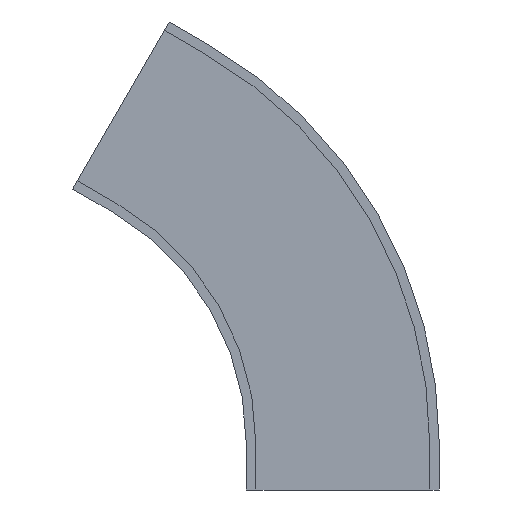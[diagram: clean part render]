
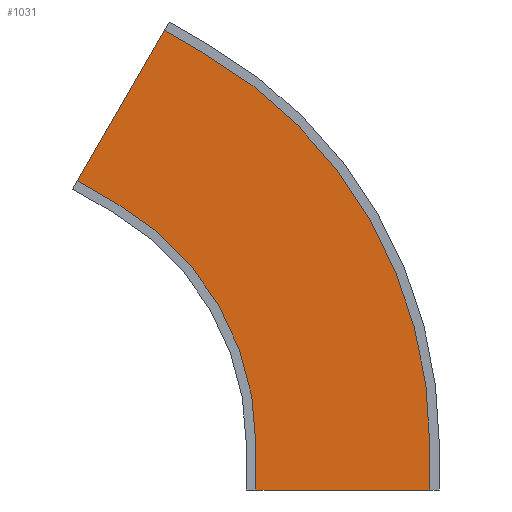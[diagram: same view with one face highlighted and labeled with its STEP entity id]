
A CAD part, front view. The second image highlights one B-rep face of the part: STEP entity #1031.
In plain terms, the highlighted planar face has unit normal (0, -1, 0).
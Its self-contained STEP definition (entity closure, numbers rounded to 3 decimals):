
#129 = CARTESIAN_POINT ( 'NONE',  ( 218.147, -68., 577.842 ) ) ;
#130 = DIRECTION ( 'NONE',  ( 0.5, 0., 0.866 ) ) ;
#131 = DIRECTION ( 'NONE',  ( -1., 0., 0. ) ) ;
#132 = DIRECTION ( 'NONE',  ( 0., 0., 1. ) ) ;
#133 = DIRECTION ( 'NONE',  ( -1., 0., 0. ) ) ;
#134 = DIRECTION ( 'NONE',  ( 0., 0., 1. ) ) ;
#136 = DIRECTION ( 'NONE',  ( -1., 0., 0. ) ) ;
#137 = DIRECTION ( 'NONE',  ( 0., 1., 0. ) ) ;
#146 = CARTESIAN_POINT ( 'NONE',  ( 0., -68., 0. ) ) ;
#148 = DIRECTION ( 'NONE',  ( 0.866, 0., -0.5 ) ) ;
#155 = CARTESIAN_POINT ( 'NONE',  ( 990.5, -68., -100. ) ) ;
#156 = CARTESIAN_POINT ( 'NONE',  ( 609.5, -68., -100. ) ) ;
#157 = DIRECTION ( 'NONE',  ( 0.866, 0., -0.5 ) ) ;
#158 = CARTESIAN_POINT ( 'NONE',  ( 0., -68., -100. ) ) ;
#159 = CARTESIAN_POINT ( 'NONE',  ( -86.603, -68., 50. ) ) ;
#160 = DIRECTION ( 'NONE',  ( 0., 1., 0. ) ) ;
#161 = CARTESIAN_POINT ( 'NONE',  ( 0., -68., 0. ) ) ;
#162 = CARTESIAN_POINT ( 'NONE',  ( 408.647, -68., 907.798 ) ) ;
#512 = DIRECTION ( 'NONE',  ( -1., 0., 0. ) ) ;
#513 = DIRECTION ( 'NONE',  ( 0., 1., 0. ) ) ;
#515 = PLANE ( 'NONE',  #1894 ) ;
#520 = CARTESIAN_POINT ( 'NONE',  ( 304.75, -68., 527.842 ) ) ;
#638 = EDGE_LOOP ( 'NONE', ( #861, #862, #863, #864, #865, #866, #867, #868 ) ) ;
#861 = ORIENTED_EDGE ( 'NONE', *, *, #911, .F. ) ;
#862 = ORIENTED_EDGE ( 'NONE', *, *, #912, .F. ) ;
#863 = ORIENTED_EDGE ( 'NONE', *, *, #913, .F. ) ;
#864 = ORIENTED_EDGE ( 'NONE', *, *, #914, .T. ) ;
#865 = ORIENTED_EDGE ( 'NONE', *, *, #908, .T. ) ;
#866 = ORIENTED_EDGE ( 'NONE', *, *, #915, .F. ) ;
#867 = ORIENTED_EDGE ( 'NONE', *, *, #916, .F. ) ;
#868 = ORIENTED_EDGE ( 'NONE', *, *, #917, .T. ) ;
#908 = EDGE_CURVE ( 'NONE', #1476, #1473, #1554, .T. ) ;
#911 = EDGE_CURVE ( 'NONE', #1470, #1483, #1559, .T. ) ;
#912 = EDGE_CURVE ( 'NONE', #1471, #1470, #1556, .T. ) ;
#913 = EDGE_CURVE ( 'NONE', #1469, #1471, #1561, .T. ) ;
#914 = EDGE_CURVE ( 'NONE', #1469, #1476, #1564, .T. ) ;
#915 = EDGE_CURVE ( 'NONE', #1472, #1473, #1566, .T. ) ;
#916 = EDGE_CURVE ( 'NONE', #1466, #1472, #1562, .T. ) ;
#917 = EDGE_CURVE ( 'NONE', #1466, #1483, #1570, .T. ) ;
#1031 = ADVANCED_FACE ( 'NONE', ( #1743 ), #515, .F. ) ;
#1109 = CARTESIAN_POINT ( 'NONE',  ( 990.5, -68., -100. ) ) ;
#1112 = CARTESIAN_POINT ( 'NONE',  ( 218.147, -68., 577.842 ) ) ;
#1113 = CARTESIAN_POINT ( 'NONE',  ( 495.25, -68., 857.798 ) ) ;
#1114 = CARTESIAN_POINT ( 'NONE',  ( 408.647, -68., 907.798 ) ) ;
#1115 = CARTESIAN_POINT ( 'NONE',  ( 609.5, -68., -100. ) ) ;
#1116 = CARTESIAN_POINT ( 'NONE',  ( 609.5, -68., 0. ) ) ;
#1119 = CARTESIAN_POINT ( 'NONE',  ( 304.75, -68., 527.842 ) ) ;
#1126 = CARTESIAN_POINT ( 'NONE',  ( 990.5, -68., 0. ) ) ;
#1254 = AXIS2_PLACEMENT_3D ( 'NONE', #146, #137, #136 ) ;
#1255 = AXIS2_PLACEMENT_3D ( 'NONE', #161, #160, #131 ) ;
#1466 = VERTEX_POINT ( 'NONE', #1109 ) ;
#1469 = VERTEX_POINT ( 'NONE', #1112 ) ;
#1470 = VERTEX_POINT ( 'NONE', #1113 ) ;
#1471 = VERTEX_POINT ( 'NONE', #1114 ) ;
#1472 = VERTEX_POINT ( 'NONE', #1115 ) ;
#1473 = VERTEX_POINT ( 'NONE', #1116 ) ;
#1476 = VERTEX_POINT ( 'NONE', #1119 ) ;
#1483 = VERTEX_POINT ( 'NONE', #1126 ) ;
#1554 = CIRCLE ( 'NONE', #1254, 609.5 ) ;
#1556 = LINE ( 'NONE', #162, #1563 ) ;
#1559 = CIRCLE ( 'NONE', #1255, 990.5 ) ;
#1561 = LINE ( 'NONE', #159, #1565 ) ;
#1562 = LINE ( 'NONE', #158, #1571 ) ;
#1563 = VECTOR ( 'NONE', #148, 1000. ) ;
#1564 = LINE ( 'NONE', #129, #1567 ) ;
#1565 = VECTOR ( 'NONE', #130, 1000. ) ;
#1566 = LINE ( 'NONE', #156, #1569 ) ;
#1567 = VECTOR ( 'NONE', #157, 1000. ) ;
#1569 = VECTOR ( 'NONE', #134, 1000. ) ;
#1570 = LINE ( 'NONE', #155, #1573 ) ;
#1571 = VECTOR ( 'NONE', #133, 1000. ) ;
#1573 = VECTOR ( 'NONE', #132, 1000. ) ;
#1743 = FACE_OUTER_BOUND ( 'NONE', #638, .T. ) ;
#1894 = AXIS2_PLACEMENT_3D ( 'NONE', #520, #513, #512 ) ;
